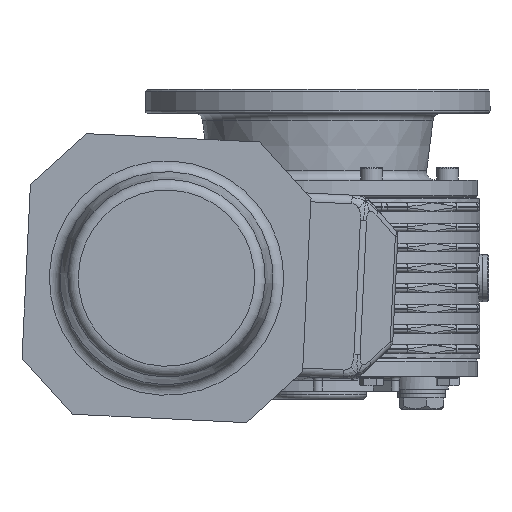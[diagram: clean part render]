
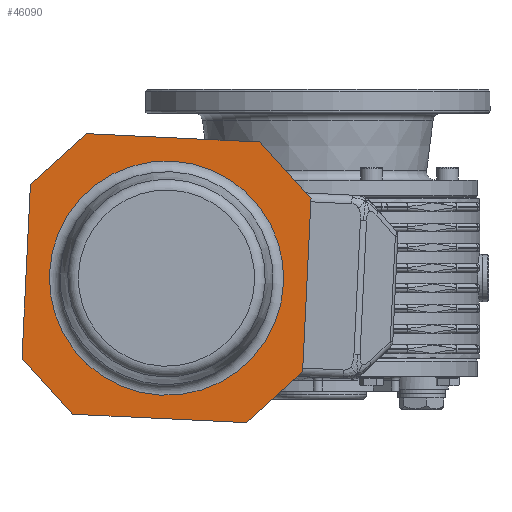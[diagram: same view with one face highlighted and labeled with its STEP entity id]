
A CAD part, left-side view. The second image highlights one B-rep face of the part: STEP entity #46090.
In plain terms, the highlighted planar face has unit normal (-1, 0, 0) as drawn and (1, 0, 0) by its records, which use the part's own axes.
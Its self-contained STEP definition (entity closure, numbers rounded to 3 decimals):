
#45984=CARTESIAN_POINT('',(209.0,0.,54.212));
#45985=VERTEX_POINT('',#45984);
#45986=CARTESIAN_POINT('',(209.0,0.0,0.0));
#45987=DIRECTION('',(1.0,0.0,0.0));
#45988=DIRECTION('',(0.0,0.0,-1.0));
#45989=AXIS2_PLACEMENT_3D('',#45986,#45987,#45988);
#45990=CIRCLE('',#45989,54.212);
#45991=EDGE_CURVE('',#45985,#45985,#45990,.T.);
#46016=CARTESIAN_POINT('',(209.0,28.6,0.0));
#46017=DIRECTION('',(1.0,0.0,0.0));
#46018=DIRECTION('',(0.0,0.0,-1.0));
#46019=AXIS2_PLACEMENT_3D('',#46016,#46017,#46018);
#46020=PLANE('',#46019);
#46021=CARTESIAN_POINT('',(209.0,-65.0,40.251));
#46022=VERTEX_POINT('',#46021);
#46023=CARTESIAN_POINT('',(209.0,-40.251,65.0));
#46024=VERTEX_POINT('',#46023);
#46025=CARTESIAN_POINT('',(209.0,-65.0,40.251));
#46026=DIRECTION('',(0.0,0.707,0.707));
#46027=VECTOR('',#46026,35.);
#46028=LINE('',#46025,#46027);
#46029=EDGE_CURVE('',#46022,#46024,#46028,.T.);
#46030=ORIENTED_EDGE('',*,*,#46029,.F.);
#46031=CARTESIAN_POINT('',(209.0,-65.0,-40.251));
#46032=VERTEX_POINT('',#46031);
#46033=CARTESIAN_POINT('',(209.0,-65.0,-40.251));
#46034=DIRECTION('',(0.0,0.0,1.0));
#46035=VECTOR('',#46034,80.503);
#46036=LINE('',#46033,#46035);
#46037=EDGE_CURVE('',#46032,#46022,#46036,.T.);
#46038=ORIENTED_EDGE('',*,*,#46037,.F.);
#46039=CARTESIAN_POINT('',(209.0,-40.251,-65.0));
#46040=VERTEX_POINT('',#46039);
#46041=CARTESIAN_POINT('',(209.0,-40.251,-65.0));
#46042=DIRECTION('',(0.0,-0.707,0.707));
#46043=VECTOR('',#46042,35.);
#46044=LINE('',#46041,#46043);
#46045=EDGE_CURVE('',#46040,#46032,#46044,.T.);
#46046=ORIENTED_EDGE('',*,*,#46045,.F.);
#46047=CARTESIAN_POINT('',(209.0,40.251,-65.0));
#46048=VERTEX_POINT('',#46047);
#46049=CARTESIAN_POINT('',(209.0,40.251,-65.0));
#46050=DIRECTION('',(0.0,-1.0,0.0));
#46051=VECTOR('',#46050,80.503);
#46052=LINE('',#46049,#46051);
#46053=EDGE_CURVE('',#46048,#46040,#46052,.T.);
#46054=ORIENTED_EDGE('',*,*,#46053,.F.);
#46055=CARTESIAN_POINT('',(209.0,65.0,-40.251));
#46056=VERTEX_POINT('',#46055);
#46057=CARTESIAN_POINT('',(209.0,65.0,-40.251));
#46058=DIRECTION('',(0.0,-0.707,-0.707));
#46059=VECTOR('',#46058,35.0);
#46060=LINE('',#46057,#46059);
#46061=EDGE_CURVE('',#46056,#46048,#46060,.T.);
#46062=ORIENTED_EDGE('',*,*,#46061,.F.);
#46063=CARTESIAN_POINT('',(209.0,65.0,40.251));
#46064=VERTEX_POINT('',#46063);
#46065=CARTESIAN_POINT('',(209.0,65.0,40.251));
#46066=DIRECTION('',(0.0,0.0,-1.0));
#46067=VECTOR('',#46066,80.503);
#46068=LINE('',#46065,#46067);
#46069=EDGE_CURVE('',#46064,#46056,#46068,.T.);
#46070=ORIENTED_EDGE('',*,*,#46069,.F.);
#46071=CARTESIAN_POINT('',(209.0,40.251,65.0));
#46072=VERTEX_POINT('',#46071);
#46073=CARTESIAN_POINT('',(209.0,40.251,65.0));
#46074=DIRECTION('',(0.0,0.707,-0.707));
#46075=VECTOR('',#46074,35.0);
#46076=LINE('',#46073,#46075);
#46077=EDGE_CURVE('',#46072,#46064,#46076,.T.);
#46078=ORIENTED_EDGE('',*,*,#46077,.F.);
#46079=CARTESIAN_POINT('',(209.0,-40.251,65.0));
#46080=DIRECTION('',(0.0,1.0,0.0));
#46081=VECTOR('',#46080,80.503);
#46082=LINE('',#46079,#46081);
#46083=EDGE_CURVE('',#46024,#46072,#46082,.T.);
#46084=ORIENTED_EDGE('',*,*,#46083,.F.);
#46085=EDGE_LOOP('',(#46030,#46038,#46046,#46054,#46062,#46070,#46078,#46084));
#46086=FACE_OUTER_BOUND('',#46085,.T.);
#46087=ORIENTED_EDGE('',*,*,#45991,.F.);
#46088=EDGE_LOOP('',(#46087));
#46089=FACE_BOUND('',#46088,.T.);
#46090=ADVANCED_FACE('',(#46086,#46089),#46020,.T.);
